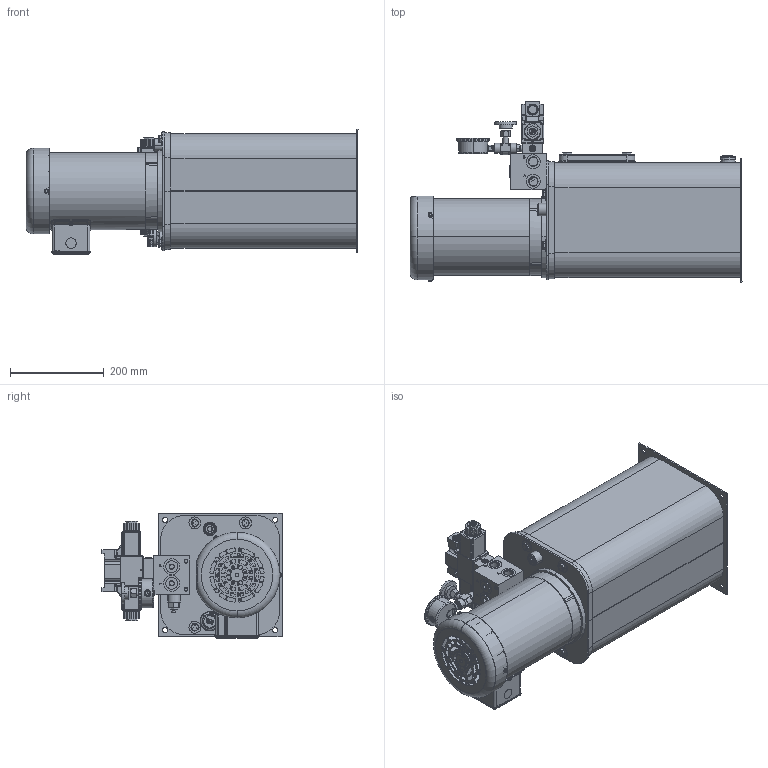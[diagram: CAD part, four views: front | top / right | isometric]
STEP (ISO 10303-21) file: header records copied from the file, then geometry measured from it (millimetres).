
FILE_DESCRIPTION (( 'STEP AP214' ), '1' );
FILE_NAME ('T5V-20-M-P1-XX-059.STEP', '2021-09-08T14:33:57', ( '' ), ( '' ), 'SwSTEP 2.0', 'SolidWorks 2020', '' );
FILE_SCHEMA (( 'AUTOMOTIVE_DESIGN' ));
Length unit declared in the file: inch
Products named in the file (1): T5V-20-M-P1-XX-059
Bounding box: 707.75 x 383.81 x 267.54 mm (x, y, z)
Surface area: 1112261.6 mm2 (no closed solid volume)
Topology: 0 solids, 144 shells, 1744 faces, 8002 edges, 6190 vertices
Faces by surface type: plane 704, cylinder 581, bspline 172, cone 168, torus 91, sphere 28
Entity records: 140467 total; most frequent: CARTESIAN_POINT 57294, DIRECTION 11745, ORIENTED_EDGE 11287, EDGE_CURVE 7977, VERTEX_POINT 6190, VECTOR 3963, LINE 3963, AXIS2_PLACEMENT_3D 3891
